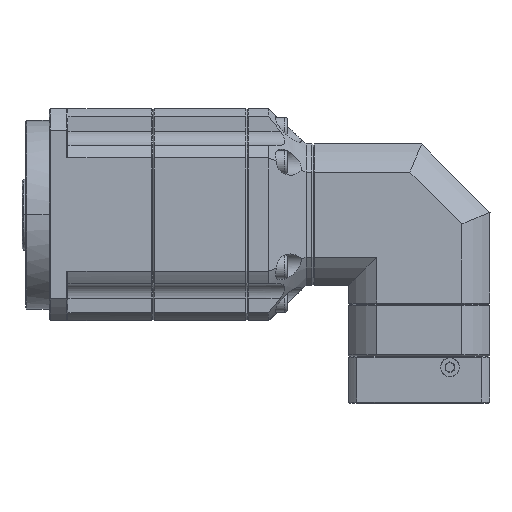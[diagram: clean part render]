
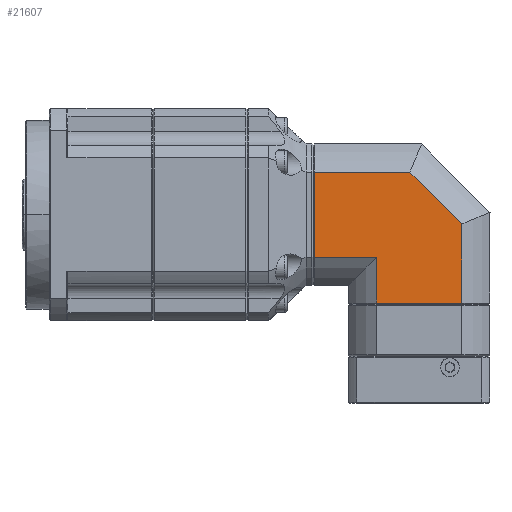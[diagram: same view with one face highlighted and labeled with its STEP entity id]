
A CAD part, top view. The second image highlights one B-rep face of the part: STEP entity #21607.
In plain terms, the highlighted planar face has unit normal (0, 0, -1).
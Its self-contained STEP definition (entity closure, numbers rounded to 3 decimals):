
#2230 = EDGE_LOOP ( 'NONE', ( #63951, #70275, #71815, #72491, #49630, #32203, #61296 ) ) ;
#2235 = VECTOR ( 'NONE', #39904, 1000. ) ;
#3141 = CARTESIAN_POINT ( 'NONE',  ( 122.5, -9.736, 30. ) ) ;
#3417 = LINE ( 'NONE', #56501, #95417 ) ;
#3739 = VECTOR ( 'NONE', #13623, 1000. ) ;
#4184 = CARTESIAN_POINT ( 'NONE',  ( 122.5, 18.028, 30. ) ) ;
#6059 = VECTOR ( 'NONE', #51332, 1000. ) ;
#7574 = EDGE_CURVE ( 'NONE', #56728, #18706, #65391, .T. ) ;
#7897 = EDGE_CURVE ( 'NONE', #56728, #57194, #38646, .T. ) ;
#8066 = EDGE_CURVE ( 'NONE', #32299, #57194, #61847, .T. ) ;
#8893 = CARTESIAN_POINT ( 'NONE',  ( 122.5, -18.028, 30. ) ) ;
#9798 = CARTESIAN_POINT ( 'NONE',  ( 148.972, -18.028, 30. ) ) ;
#9808 = AXIS2_PLACEMENT_3D ( 'NONE', #61737, #26344, #33810 ) ;
#13623 = DIRECTION ( 'NONE',  ( -0.707, 0.707, 0. ) ) ;
#13906 = DIRECTION ( 'NONE',  ( 1., 0., 0. ) ) ;
#16768 = CARTESIAN_POINT ( 'NONE',  ( 148.972, -37.5, 30. ) ) ;
#16909 = DIRECTION ( 'NONE',  ( -1., 0., 0. ) ) ;
#17581 = LINE ( 'NONE', #61444, #61785 ) ;
#18706 = VERTEX_POINT ( 'NONE', #57396 ) ;
#21607 = ADVANCED_FACE ( 'NONE', ( #55928 ), #53959, .T. ) ;
#26344 = DIRECTION ( 'NONE',  ( 0., 0., -1. ) ) ;
#28251 = CARTESIAN_POINT ( 'NONE',  ( 185.028, -37.5, 30. ) ) ;
#30702 = CARTESIAN_POINT ( 'NONE',  ( 148.972, -9.736, 30. ) ) ;
#32203 = ORIENTED_EDGE ( 'NONE', *, *, #7897, .T. ) ;
#32299 = VERTEX_POINT ( 'NONE', #9798 ) ;
#33810 = DIRECTION ( 'NONE',  ( 0., 1., 0. ) ) ;
#36076 = LINE ( 'NONE', #3141, #2235 ) ;
#36237 = EDGE_CURVE ( 'NONE', #18706, #72050, #54886, .T. ) ;
#37078 = EDGE_CURVE ( 'NONE', #72050, #54051, #17581, .T. ) ;
#37231 = DIRECTION ( 'NONE',  ( 0., -1., 0. ) ) ;
#38646 = LINE ( 'NONE', #59344, #63055 ) ;
#39740 = VECTOR ( 'NONE', #37231, 1000. ) ;
#39904 = DIRECTION ( 'NONE',  ( 0., -1., 0. ) ) ;
#49630 = ORIENTED_EDGE ( 'NONE', *, *, #7574, .F. ) ;
#51332 = DIRECTION ( 'NONE',  ( 0., 1., 0. ) ) ;
#53959 = PLANE ( 'NONE',  #9808 ) ;
#54051 = VERTEX_POINT ( 'NONE', #4184 ) ;
#54886 = LINE ( 'NONE', #65924, #3739 ) ;
#55928 = FACE_OUTER_BOUND ( 'NONE', #2230, .T. ) ;
#56501 = CARTESIAN_POINT ( 'NONE',  ( 153.764, -18.028, 30. ) ) ;
#56728 = VERTEX_POINT ( 'NONE', #28251 ) ;
#57194 = VERTEX_POINT ( 'NONE', #16768 ) ;
#57396 = CARTESIAN_POINT ( 'NONE',  ( 185.028, -3.959, 30. ) ) ;
#59344 = CARTESIAN_POINT ( 'NONE',  ( 167., -37.5, 30. ) ) ;
#61296 = ORIENTED_EDGE ( 'NONE', *, *, #8066, .F. ) ;
#61444 = CARTESIAN_POINT ( 'NONE',  ( 153.764, 18.028, 30. ) ) ;
#61737 = CARTESIAN_POINT ( 'NONE',  ( 122.5, -37.5, 30. ) ) ;
#61785 = VECTOR ( 'NONE', #16909, 1000. ) ;
#61847 = LINE ( 'NONE', #30702, #39740 ) ;
#63055 = VECTOR ( 'NONE', #80811, 1000. ) ;
#63951 = ORIENTED_EDGE ( 'NONE', *, *, #85893, .F. ) ;
#65391 = LINE ( 'NONE', #73430, #6059 ) ;
#65924 = CARTESIAN_POINT ( 'NONE',  ( 188.708, -7.64, 30. ) ) ;
#70275 = ORIENTED_EDGE ( 'NONE', *, *, #80779, .F. ) ;
#71815 = ORIENTED_EDGE ( 'NONE', *, *, #37078, .F. ) ;
#72050 = VERTEX_POINT ( 'NONE', #74704 ) ;
#72491 = ORIENTED_EDGE ( 'NONE', *, *, #36237, .F. ) ;
#73430 = CARTESIAN_POINT ( 'NONE',  ( 185.028, -9.736, 30. ) ) ;
#74704 = CARTESIAN_POINT ( 'NONE',  ( 163.041, 18.028, 30. ) ) ;
#80779 = EDGE_CURVE ( 'NONE', #54051, #86171, #36076, .T. ) ;
#80811 = DIRECTION ( 'NONE',  ( -1., 0., 0. ) ) ;
#85893 = EDGE_CURVE ( 'NONE', #86171, #32299, #3417, .T. ) ;
#86171 = VERTEX_POINT ( 'NONE', #8893 ) ;
#95417 = VECTOR ( 'NONE', #13906, 1000. ) ;
